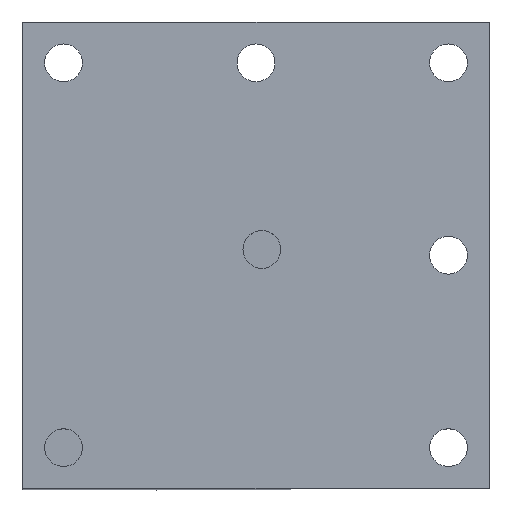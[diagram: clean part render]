
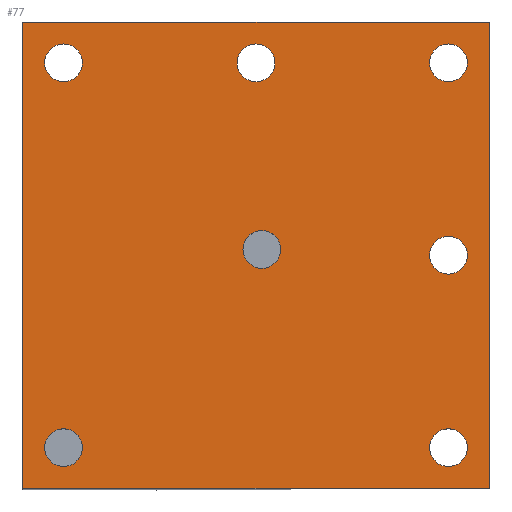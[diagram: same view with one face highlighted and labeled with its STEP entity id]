
A CAD part, top view. The second image highlights one B-rep face of the part: STEP entity #77.
In plain terms, the highlighted planar face has unit normal (0, 0, 1).
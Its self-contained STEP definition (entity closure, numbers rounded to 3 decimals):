
#77 = ADVANCED_FACE( '', ( #161, #162, #163, #164, #165, #166, #167, #168 ), #169, .T. );
#161 = FACE_BOUND( '', #257, .T. );
#162 = FACE_BOUND( '', #258, .T. );
#163 = FACE_OUTER_BOUND( '', #259, .T. );
#164 = FACE_BOUND( '', #260, .T. );
#165 = FACE_BOUND( '', #261, .T. );
#166 = FACE_BOUND( '', #262, .T. );
#167 = FACE_BOUND( '', #263, .T. );
#168 = FACE_BOUND( '', #264, .T. );
#169 = PLANE( '', #265 );
#257 = EDGE_LOOP( '', ( #403 ) );
#258 = EDGE_LOOP( '', ( #404 ) );
#259 = EDGE_LOOP( '', ( #405, #406, #407, #408 ) );
#260 = EDGE_LOOP( '', ( #409 ) );
#261 = EDGE_LOOP( '', ( #410 ) );
#262 = EDGE_LOOP( '', ( #411 ) );
#263 = EDGE_LOOP( '', ( #412 ) );
#264 = EDGE_LOOP( '', ( #413 ) );
#265 = AXIS2_PLACEMENT_3D( '', #414, #415, #416 );
#403 = ORIENTED_EDGE( '', *, *, #487, .F. );
#404 = ORIENTED_EDGE( '', *, *, #517, .F. );
#405 = ORIENTED_EDGE( '', *, *, #526, .T. );
#406 = ORIENTED_EDGE( '', *, *, #509, .T. );
#407 = ORIENTED_EDGE( '', *, *, #482, .T. );
#408 = ORIENTED_EDGE( '', *, *, #527, .T. );
#409 = ORIENTED_EDGE( '', *, *, #520, .F. );
#410 = ORIENTED_EDGE( '', *, *, #492, .F. );
#411 = ORIENTED_EDGE( '', *, *, #514, .F. );
#412 = ORIENTED_EDGE( '', *, *, #528, .F. );
#413 = ORIENTED_EDGE( '', *, *, #529, .F. );
#414 = CARTESIAN_POINT( '', ( 0., 0., 0. ) );
#415 = DIRECTION( '', ( 0., 0., 1. ) );
#416 = DIRECTION( '', ( 1., 0., 0. ) );
#482 = EDGE_CURVE( '', #553, #554, #555, .T. );
#487 = EDGE_CURVE( '', #562, #562, #563, .T. );
#492 = EDGE_CURVE( '', #570, #570, #571, .T. );
#509 = EDGE_CURVE( '', #595, #553, #596, .T. );
#514 = EDGE_CURVE( '', #602, #602, #603, .T. );
#517 = EDGE_CURVE( '', #607, #607, #608, .T. );
#520 = EDGE_CURVE( '', #612, #612, #613, .T. );
#526 = EDGE_CURVE( '', #620, #595, #621, .T. );
#527 = EDGE_CURVE( '', #554, #620, #622, .T. );
#528 = EDGE_CURVE( '', #623, #623, #624, .T. );
#529 = EDGE_CURVE( '', #625, #625, #626, .T. );
#553 = VERTEX_POINT( '', #655 );
#554 = VERTEX_POINT( '', #656 );
#555 = LINE( '', #657, #658 );
#562 = VERTEX_POINT( '', #668 );
#563 = CIRCLE( '', #669, 3.24 );
#570 = VERTEX_POINT( '', #676 );
#571 = CIRCLE( '', #677, 3.24 );
#595 = VERTEX_POINT( '', #709 );
#596 = LINE( '', #710, #711 );
#602 = VERTEX_POINT( '', #719 );
#603 = CIRCLE( '', #720, 3.24 );
#607 = VERTEX_POINT( '', #724 );
#608 = CIRCLE( '', #725, 3.24 );
#612 = VERTEX_POINT( '', #729 );
#613 = CIRCLE( '', #730, 3.24 );
#620 = VERTEX_POINT( '', #740 );
#621 = LINE( '', #741, #742 );
#622 = LINE( '', #743, #744 );
#623 = VERTEX_POINT( '', #745 );
#624 = CIRCLE( '', #746, 3.24 );
#625 = VERTEX_POINT( '', #747 );
#626 = CIRCLE( '', #748, 3.24 );
#655 = CARTESIAN_POINT( '', ( 7., -73., 0. ) );
#656 = CARTESIAN_POINT( '', ( 7., 7., 0. ) );
#657 = CARTESIAN_POINT( '', ( 7., -73., 0. ) );
#658 = VECTOR( '', #775, 1000. );
#668 = CARTESIAN_POINT( '', ( -62.76, -66., 0. ) );
#669 = AXIS2_PLACEMENT_3D( '', #779, #780, #781 );
#676 = CARTESIAN_POINT( '', ( -29.76, 0., 0. ) );
#677 = AXIS2_PLACEMENT_3D( '', #788, #789, #790 );
#709 = CARTESIAN_POINT( '', ( -73., -73., 0. ) );
#710 = CARTESIAN_POINT( '', ( -73., -73., 0. ) );
#711 = VECTOR( '', #808, 1000. );
#719 = CARTESIAN_POINT( '', ( 3.24, -66., 0. ) );
#720 = AXIS2_PLACEMENT_3D( '', #814, #815, #816 );
#724 = CARTESIAN_POINT( '', ( -28.76, -32., 0. ) );
#725 = AXIS2_PLACEMENT_3D( '', #820, #821, #822 );
#729 = CARTESIAN_POINT( '', ( -62.76, 0., 0. ) );
#730 = AXIS2_PLACEMENT_3D( '', #826, #827, #828 );
#740 = CARTESIAN_POINT( '', ( -73., 7., 0. ) );
#741 = CARTESIAN_POINT( '', ( -73., 7., 0. ) );
#742 = VECTOR( '', #832, 1000. );
#743 = CARTESIAN_POINT( '', ( 7., 7., 0. ) );
#744 = VECTOR( '', #833, 1000. );
#745 = CARTESIAN_POINT( '', ( 3.24, -33., 0. ) );
#746 = AXIS2_PLACEMENT_3D( '', #834, #835, #836 );
#747 = CARTESIAN_POINT( '', ( 3.24, 0., 0. ) );
#748 = AXIS2_PLACEMENT_3D( '', #837, #838, #839 );
#775 = DIRECTION( '', ( 0., 1., 0. ) );
#779 = CARTESIAN_POINT( '', ( -66., -66., 0. ) );
#780 = DIRECTION( '', ( 0., 0., 1. ) );
#781 = DIRECTION( '', ( 1., 0., 0. ) );
#788 = CARTESIAN_POINT( '', ( -33., 0., 0. ) );
#789 = DIRECTION( '', ( 0., 0., 1. ) );
#790 = DIRECTION( '', ( 1., 0., 0. ) );
#808 = DIRECTION( '', ( 1., 0., 0. ) );
#814 = CARTESIAN_POINT( '', ( 0., -66., 0. ) );
#815 = DIRECTION( '', ( 0., 0., 1. ) );
#816 = DIRECTION( '', ( 1., 0., 0. ) );
#820 = CARTESIAN_POINT( '', ( -32., -32., 0. ) );
#821 = DIRECTION( '', ( 0., 0., 1. ) );
#822 = DIRECTION( '', ( 1., 0., 0. ) );
#826 = CARTESIAN_POINT( '', ( -66., 0., 0. ) );
#827 = DIRECTION( '', ( 0., 0., 1. ) );
#828 = DIRECTION( '', ( 1., 0., 0. ) );
#832 = DIRECTION( '', ( 0., -1., 0. ) );
#833 = DIRECTION( '', ( -1., 0., 0. ) );
#834 = CARTESIAN_POINT( '', ( 0., -33., 0. ) );
#835 = DIRECTION( '', ( 0., 0., 1. ) );
#836 = DIRECTION( '', ( 1., 0., 0. ) );
#837 = CARTESIAN_POINT( '', ( 0., 0., 0. ) );
#838 = DIRECTION( '', ( 0., 0., 1. ) );
#839 = DIRECTION( '', ( 1., 0., 0. ) );
